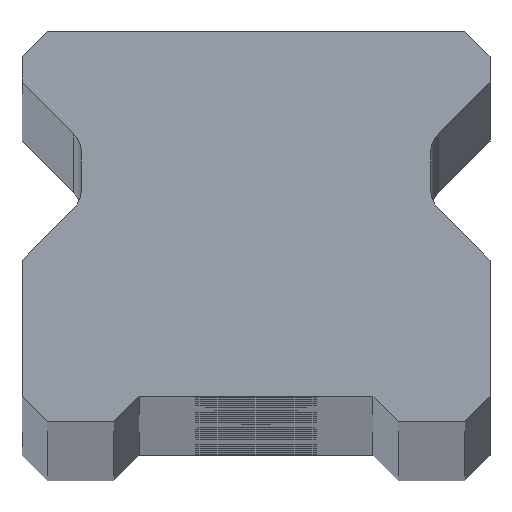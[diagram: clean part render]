
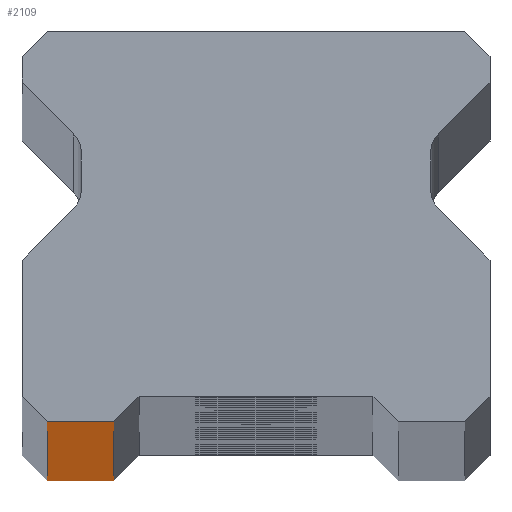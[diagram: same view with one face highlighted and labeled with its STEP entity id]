
A CAD part, top view. The second image highlights one B-rep face of the part: STEP entity #2109.
In plain terms, the highlighted planar face has unit normal (0, -1, 0).
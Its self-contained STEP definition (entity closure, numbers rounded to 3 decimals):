
#310 = CARTESIAN_POINT ( 'NONE',  ( -10.25, 0., -830. ) ) ;
#322 = CARTESIAN_POINT ( 'NONE',  ( 11.5, 0., 830. ) ) ;
#365 = LINE ( 'NONE', #4647, #5674 ) ;
#461 = CARTESIAN_POINT ( 'NONE',  ( -7., 0., -830. ) ) ;
#652 = CARTESIAN_POINT ( 'NONE',  ( -10.25, 0., 830. ) ) ;
#924 = FACE_OUTER_BOUND ( 'NONE', #3691, .T. ) ;
#1045 = VECTOR ( 'NONE', #3634, 1000. ) ;
#1143 = ORIENTED_EDGE ( 'NONE', *, *, #1639, .T. ) ;
#1337 = EDGE_CURVE ( 'NONE', #2285, #4831, #365, .T. ) ;
#1639 = EDGE_CURVE ( 'NONE', #4831, #3115, #2091, .T. ) ;
#1680 = CARTESIAN_POINT ( 'NONE',  ( -7., 0., -830. ) ) ;
#1881 = VECTOR ( 'NONE', #3050, 1000. ) ;
#2091 = LINE ( 'NONE', #1680, #1881 ) ;
#2109 = ADVANCED_FACE ( 'NONE', ( #924 ), #5770, .F. ) ;
#2213 = LINE ( 'NONE', #3926, #4191 ) ;
#2285 = VERTEX_POINT ( 'NONE', #310 ) ;
#2324 = DIRECTION ( 'NONE',  ( 1., 0., 0. ) ) ;
#3050 = DIRECTION ( 'NONE',  ( 0., 0., 1. ) ) ;
#3058 = CARTESIAN_POINT ( 'NONE',  ( -7., 0., 830. ) ) ;
#3079 = EDGE_CURVE ( 'NONE', #5078, #2285, #2213, .T. ) ;
#3115 = VERTEX_POINT ( 'NONE', #3058 ) ;
#3412 = ORIENTED_EDGE ( 'NONE', *, *, #3079, .T. ) ;
#3433 = ORIENTED_EDGE ( 'NONE', *, *, #4735, .F. ) ;
#3526 = CARTESIAN_POINT ( 'NONE',  ( 11.5, 0., 830. ) ) ;
#3634 = DIRECTION ( 'NONE',  ( 1., 0., 0. ) ) ;
#3691 = EDGE_LOOP ( 'NONE', ( #4564, #1143, #3433, #3412 ) ) ;
#3926 = CARTESIAN_POINT ( 'NONE',  ( -10.25, 0., 830. ) ) ;
#3941 = DIRECTION ( 'NONE',  ( 0., 1., 0. ) ) ;
#4191 = VECTOR ( 'NONE', #4927, 1000. ) ;
#4564 = ORIENTED_EDGE ( 'NONE', *, *, #1337, .T. ) ;
#4647 = CARTESIAN_POINT ( 'NONE',  ( 11.5, 0., -830. ) ) ;
#4735 = EDGE_CURVE ( 'NONE', #5078, #3115, #4835, .T. ) ;
#4831 = VERTEX_POINT ( 'NONE', #461 ) ;
#4835 = LINE ( 'NONE', #322, #1045 ) ;
#4927 = DIRECTION ( 'NONE',  ( 0., 0., -1. ) ) ;
#4989 = AXIS2_PLACEMENT_3D ( 'NONE', #3526, #3941, #5853 ) ;
#5078 = VERTEX_POINT ( 'NONE', #652 ) ;
#5674 = VECTOR ( 'NONE', #2324, 1000. ) ;
#5770 = PLANE ( 'NONE',  #4989 ) ;
#5853 = DIRECTION ( 'NONE',  ( -1., 0., 0. ) ) ;
